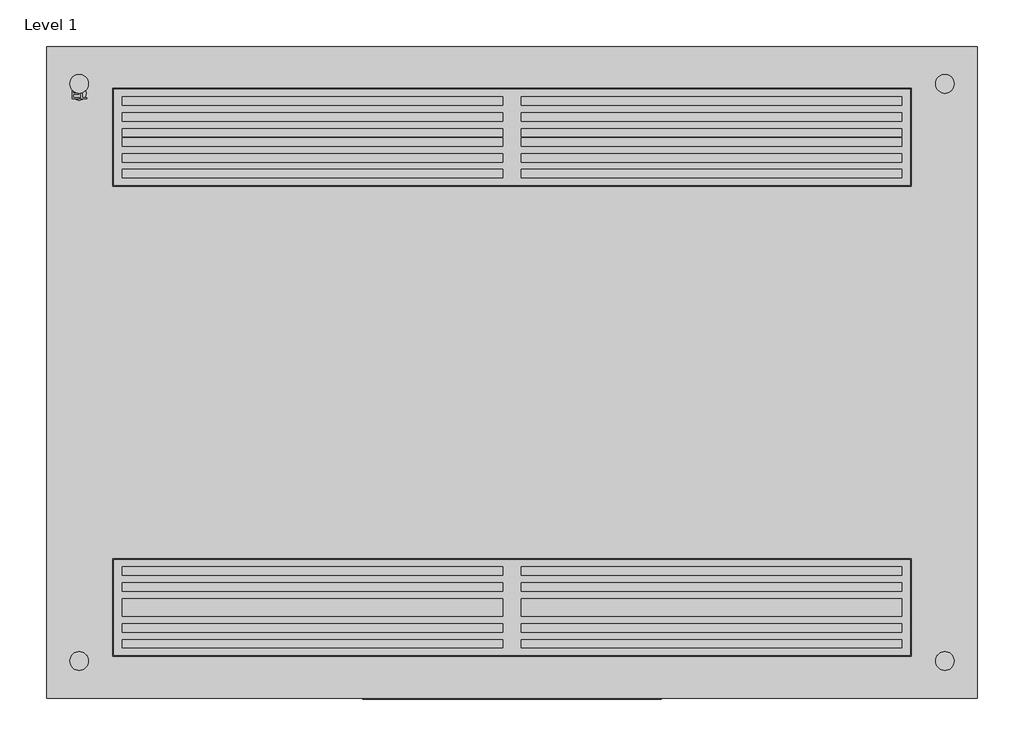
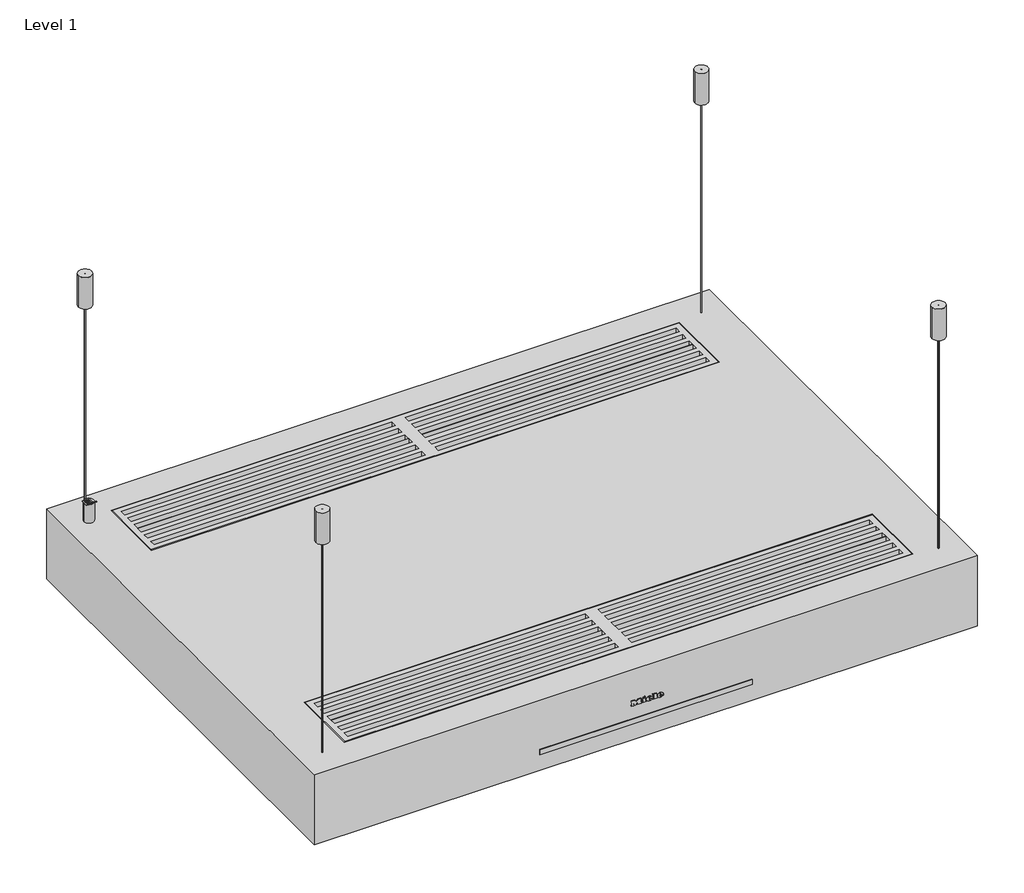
# One storey: 1 proxy.
"""IFC4 building model written with IfcOpenShell, lengths in millimetres."""

import ifcopenshell
import ifcopenshell.guid

model = None  # the IFC model being written
_history = None  # IfcOwnerHistory: only IFC2X3 demands one
_inside = {}  # id of a spatial element -> (the spatial element, [elements in it])
_under = {}  # id of a project, library or spatial element -> (it, [spatial elements below it])
_declared = {}  # id of a project -> (the project, [libraries it declares])
_typed = {}  # id of a type object -> (the type object, [elements of that type])
_made_of = {}  # id of a material, layer set ... -> (it, [elements and type objects made of it])


def new_model(schema):
    """Start an empty IFC model of exactly this schema.

    Asked for "IFC4X3", IfcOpenShell would pick the latest addendum, in which some entities
    have other attributes; the version numbers below select the first issue.
    IFC2X3 requires an IfcOwnerHistory on every rooted entity: one is made here for all.
    """
    global model, _history
    if schema == "IFC4X3":
        model = ifcopenshell.file(schema_version=(4, 3, 0, 0))
    else:
        model = ifcopenshell.file(schema=schema)
    _inside.clear()
    _under.clear()
    _declared.clear()
    _typed.clear()
    _made_of.clear()
    _history = None
    if model.schema == "IFC2X3":
        org = make("IfcOrganization", Name="unknown")
        user = make(
            "IfcPersonAndOrganization",
            ThePerson=make("IfcPerson", FamilyName="unknown"),
            TheOrganization=org,
        )
        app = make(
            "IfcApplication",
            ApplicationDeveloper=org,
            Version="unknown",
            ApplicationFullName="unknown",
            ApplicationIdentifier="unknown",
        )
        _history = make(
            "IfcOwnerHistory",
            OwningUser=user,
            OwningApplication=app,
            ChangeAction="ADDED",
            CreationDate=0,
        )
    return model


def make(cls, **values):
    """One entity of the class cls with the attributes given. An attribute that is None is left unset."""
    return model.create_entity(
        cls, **{name: value for name, value in values.items() if value is not None}
    )


def rooted(cls, **values):
    """An entity with a GlobalId (a new one), such as an element, a storey or a relation."""
    return make(cls, GlobalId=ifcopenshell.guid.new(), OwnerHistory=_history, **values)


def si_unit(unit_type, name, prefix=None):
    """IfcSIUnit, for example si_unit("LENGTHUNIT", "METRE", prefix="MILLI")."""
    return make("IfcSIUnit", UnitType=unit_type, Prefix=prefix, Name=name)


def assignment(units):
    """IfcUnitAssignment: the units of a project."""
    return None if units is None else make("IfcUnitAssignment", Units=units)


def point(xyz):
    """IfcCartesianPoint."""
    return None if xyz is None else make("IfcCartesianPoint", Coordinates=xyz)


def direction(xyz):
    """IfcDirection."""
    return None if xyz is None else make("IfcDirection", DirectionRatios=xyz)


def frame(location, z_axis=None, x_axis=None):
    """IfcAxis2Placement3D, a coordinate frame: its origin and axes. An axis left out is left unset."""
    return make(
        "IfcAxis2Placement3D",
        Location=point(location),
        Axis=direction(z_axis),
        RefDirection=direction(x_axis),
    )


def frame_2d(location, x_axis=None):
    """IfcAxis2Placement2D, a coordinate frame in the plane: its origin and x axis."""
    return make(
        "IfcAxis2Placement2D", Location=point(location), RefDirection=direction(x_axis)
    )


def origin():
    """The frame at (0, 0, 0) with its axes left unset."""
    return frame((0.0, 0.0, 0.0))


def place(relative_to, where):
    """IfcLocalPlacement: puts the frame where relative to a parent placement (None: the world)."""
    return make(
        "IfcLocalPlacement", PlacementRelTo=relative_to, RelativePlacement=where
    )


def context(
    kind, dimensions, precision=None, world=None, true_north=None, identifier=None
):
    """IfcGeometricRepresentationContext, for example the 3D "Model" context."""
    return make(
        "IfcGeometricRepresentationContext",
        ContextIdentifier=identifier,
        ContextType=kind,
        CoordinateSpaceDimension=dimensions,
        Precision=precision,
        WorldCoordinateSystem=world,
        TrueNorth=true_north,
    )


def project(units=None, contexts=None):
    """IfcProject with its units and contexts."""
    return rooted(
        "IfcProject",
        Name="project",
        RepresentationContexts=contexts,
        UnitsInContext=assignment(units),
    )


def spatial(cls, under=None, at=None, **own):
    """A site, building, storey or space (cls), placed at a placement, below another one or the project."""
    s = rooted(cls, ObjectPlacement=at, **own)
    if under is not None:
        _under.setdefault(under.id(), (under, []))[1].append(s)
    return s


def polyline(points):
    """IfcPolyline through the points."""
    return make("IfcPolyline", Points=[point(p) for p in points])


def circle_curve(where, radius):
    """IfcCircle in the frame where."""
    return make("IfcCircle", Position=where, Radius=radius)


def ellipse_curve(where, semi_axis1, semi_axis2):
    """IfcEllipse in the frame where."""
    return make(
        "IfcEllipse", Position=where, SemiAxis1=semi_axis1, SemiAxis2=semi_axis2
    )


def trimmed(basis, trim1, trim2, sense, master):
    """IfcTrimmedCurve: the piece of a basis curve between two trims."""
    return make(
        "IfcTrimmedCurve",
        BasisCurve=basis,
        Trim1=trim1,
        Trim2=trim2,
        SenseAgreement=sense,
        MasterRepresentation=master,
    )


def segment(curve, same_sense, transition):
    """IfcCompositeCurveSegment."""
    return make(
        "IfcCompositeCurveSegment",
        Transition=transition,
        SameSense=same_sense,
        ParentCurve=curve,
    )


def composite_curve(segments, self_intersect=None):
    """IfcCompositeCurve: segments joined end to end."""
    return make("IfcCompositeCurve", Segments=segments, SelfIntersect=self_intersect)


def outline(outer, holes=None, kind="AREA"):
    """IfcArbitraryClosedProfileDef: a profile drawn as a closed curve; with holes, ...WithVoids."""
    if holes is None:
        return make("IfcArbitraryClosedProfileDef", ProfileType=kind, OuterCurve=outer)
    return make(
        "IfcArbitraryProfileDefWithVoids",
        ProfileType=kind,
        OuterCurve=outer,
        InnerCurves=holes,
    )


def extrude(swept, where, along, depth):
    """IfcExtrudedAreaSolid: the profile swept, set in the frame where, extruded along a direction by depth."""
    return make(
        "IfcExtrudedAreaSolid",
        SweptArea=swept,
        Position=where,
        ExtrudedDirection=direction(along),
        Depth=depth,
    )


def faces_of(points, faces, orient=None, outer=None):
    """IfcFace entities. A face is a list of loops; a loop is a list of indices into points, from 0.

    orient and outer hold one flag for each loop. By default every Orientation is true, the
    first loop of a face is its IfcFaceOuterBound and the others are IfcFaceBound.
    """
    made = []
    for i, loops in enumerate(faces):
        bounds = []
        for j, loop in enumerate(loops):
            is_outer = j == 0 if outer is None else outer[i][j]
            bounds.append(
                make(
                    "IfcFaceOuterBound" if is_outer else "IfcFaceBound",
                    Bound=make("IfcPolyLoop", Polygon=[points[k] for k in loop]),
                    Orientation=True if orient is None else orient[i][j],
                )
            )
        made.append(make("IfcFace", Bounds=bounds))
    return made


def faceted_brep(points, faces, orient=None, outer=None, voids=None):
    """IfcFacetedBrep: a solid bounded by flat faces; with voids (closed shells), ...WithVoids."""
    shared = [point(p) for p in points]
    hull = make("IfcClosedShell", CfsFaces=faces_of(shared, faces, orient, outer))
    if voids is None:
        return make("IfcFacetedBrep", Outer=hull)
    return make(
        "IfcFacetedBrepWithVoids",
        Outer=hull,
        Voids=[
            make(cls, CfsFaces=faces_of(shared, fs, o, b)) for cls, fs, o, b in voids
        ],
    )


def shape(context_of_items, identifier, shape_type, items):
    """IfcShapeRepresentation: the items that make up one representation, for example the "Body"."""
    return make(
        "IfcShapeRepresentation",
        ContextOfItems=context_of_items,
        RepresentationIdentifier=identifier,
        RepresentationType=shape_type,
        Items=items,
    )


def source(mapping_origin, context_of_items, identifier, shape_type, items):
    """IfcRepresentationMap: a shape defined once, which mapped items show again and again."""
    return make(
        "IfcRepresentationMap",
        MappingOrigin=mapping_origin,
        MappedRepresentation=shape(context_of_items, identifier, shape_type, items),
    )


def transform(
    local_origin,
    x_axis=None,
    y_axis=None,
    z_axis=None,
    scale=None,
    scale2=None,
    scale3=None,
    uniform=True,
):
    """IfcCartesianTransformationOperator3D, or its non-uniform kind. x_axis, y_axis, z_axis: its Axis1, 2, 3."""
    if uniform:
        return make(
            "IfcCartesianTransformationOperator3D",
            Axis1=direction(x_axis),
            Axis2=direction(y_axis),
            LocalOrigin=point(local_origin),
            Scale=scale,
            Axis3=direction(z_axis),
        )
    return make(
        "IfcCartesianTransformationOperator3DnonUniform",
        Axis1=direction(x_axis),
        Axis2=direction(y_axis),
        LocalOrigin=point(local_origin),
        Scale=scale,
        Axis3=direction(z_axis),
        Scale2=scale2,
        Scale3=scale3,
    )


def mapped(mapping_source, mapping_target):
    """IfcMappedItem: shows the shape of a source again, moved by a transform."""
    return make(
        "IfcMappedItem", MappingSource=mapping_source, MappingTarget=mapping_target
    )


def made_of(thing, what):
    """Note that an element or type object is made of a material, layer set ...; save() writes the relation."""
    if what is not None:
        _made_of.setdefault(what.id(), (what, []))[1].append(thing)
    return thing


def element(
    cls,
    number,
    at=None,
    inside=None,
    cuts=None,
    type_object=None,
    material=None,
    context=None,
    identifier="Body",
    shape_type=None,
    held_by="IfcProductDefinitionShape",
    body=None,
    shapes=None,
    **own,
):
    """One element of the class cls, such as IfcWall. Its Tag is "e" and its number.

    at: its placement. inside: the storey or other place that contains it. cuts: it is an
    opening in that element (IfcRelVoidsElement). A single representation is given by context,
    identifier, shape_type and body (its items); several are given by shapes. held_by: the class
    of the entity that holds the representations. save() writes the other relations.
    """
    e = rooted(cls, Tag="e%d" % number, ObjectPlacement=at, **own)
    if body is not None:
        shapes = [shape(context, identifier, shape_type, body)]
    if shapes is not None:
        e.Representation = make(held_by, Representations=shapes)
    if inside is not None:
        _inside.setdefault(inside.id(), (inside, []))[1].append(e)
    if cuts is not None:
        rooted(
            "IfcRelVoidsElement", RelatingBuildingElement=cuts, RelatedOpeningElement=e
        )
    if type_object is not None:
        _typed.setdefault(type_object.id(), (type_object, []))[1].append(e)
    return made_of(e, material)


def aggregate(whole, parts):
    """IfcRelAggregates: a whole, such as a stair, and the parts it consists of."""
    return rooted("IfcRelAggregates", RelatingObject=whole, RelatedObjects=parts)


def save(model, path):
    """Write the relations noted so far, then the file.

    IfcRelAggregates (storeys below a building ...), IfcRelContainedInSpatialStructure (elements
    in a storey), IfcRelDefinesByType, IfcRelAssociatesMaterial and IfcRelDeclares: one each for
    every whole, place, type object, material and project.
    """
    for whole, parts in _under.values():
        aggregate(whole, parts)
    for where, things in _inside.values():
        rooted(
            "IfcRelContainedInSpatialStructure",
            RelatedElements=things,
            RelatingStructure=where,
        )
    for kind, things in _typed.values():
        rooted("IfcRelDefinesByType", RelatedObjects=things, RelatingType=kind)
    for what, things in _made_of.values():
        rooted("IfcRelAssociatesMaterial", RelatedObjects=things, RelatingMaterial=what)
    for by, libraries in _declared.values():
        rooted("IfcRelDeclares", RelatingContext=by, RelatedDefinitions=libraries)
    model.write(path)


def plane_surface(at):
    """IfcPlane: the flat surface through the origin of the frame at, square to its z axis."""
    return make("IfcPlane", Position=at)


def cylinder_surface(at, radius):
    """IfcCylindricalSurface: all points at the distance radius from the z axis of the frame at."""
    return make("IfcCylindricalSurface", Position=at, Radius=radius)


def revolved_surface(curve, axis_point, axis_direction):
    """IfcSurfaceOfRevolution: the curve turned about the line through axis_point along axis_direction."""
    return make(
        "IfcSurfaceOfRevolution",
        SweptCurve=make("IfcArbitraryOpenProfileDef", ProfileType="CURVE", Curve=curve),
        AxisPosition=make("IfcAxis1Placement", Location=point(axis_point), Axis=direction(axis_direction)),
    )


def extruded_surface(curve, direction_of_extrusion, depth):
    """IfcSurfaceOfLinearExtrusion: the curve pushed along a direction by depth."""
    return make(
        "IfcSurfaceOfLinearExtrusion",
        SweptCurve=make("IfcArbitraryOpenProfileDef", ProfileType="CURVE", Curve=curve),
        ExtrudedDirection=direction(direction_of_extrusion),
        Depth=depth,
    )


def advanced_brep(points, edges, surfaces, faces):
    """IfcAdvancedBrep: a solid bounded by faces that lie on surfaces and meet in shared edges.

    An edge is (start, end): straight between two places in points (the first is 0);
    or (start, end, curve); or (start, end, curve, False) where it runs against its curve.
    A face is (place in surfaces, loops), or (place, loops, False) where it looks against
    its surface's normal. A loop lists edges by number (the first is 1), with a minus sign
    where the edge is run from its end to its start. The first loop is the outer one.
    """
    corners = [point(p) for p in points]
    vertices = [make("IfcVertexPoint", VertexGeometry=c) for c in corners]
    made = []
    for start, end, *more in edges:
        made.append(
            make(
                "IfcEdgeCurve",
                EdgeStart=vertices[start],
                EdgeEnd=vertices[end],
                EdgeGeometry=more[0] if more else make("IfcPolyline", Points=[corners[start], corners[end]]),
                SameSense=more[1] if len(more) > 1 else True,
            )
        )
    hull = []
    for where, loops, *sense in faces:
        bounds = []
        for j, loop in enumerate(loops):
            ring = [make("IfcOrientedEdge", EdgeElement=made[abs(k) - 1], Orientation=k > 0) for k in loop]
            bounds.append(
                make(
                    "IfcFaceOuterBound" if j == 0 else "IfcFaceBound",
                    Bound=make("IfcEdgeLoop", EdgeList=ring),
                    Orientation=True,
                )
            )
        hull.append(make("IfcAdvancedFace", Bounds=bounds, FaceSurface=surfaces[where], SameSense=sense[0] if sense else True))
    return make("IfcAdvancedBrep", Outer=make("IfcClosedShell", CfsFaces=hull))


def specialty_equipment_cb2d4b99(model_context):
    return source(origin(), model_context, "Body", "SolidModel", [
        advanced_brep(
        [(195.883263, 289.0, 0.0), (254.116737, 289.0, 0.0), (251.5433287, 289.0, -1.2), (198.4566713, 289.0, -1.2), (225.0, 289.0, -1.2), (225.0, 289.0, 0.0)],
        [
            (0, 1, circle_curve(frame((225.0, 289.0, 0.0), z_axis=(0.0, 0.0, -1.0), x_axis=(1.0, 0.0, 0.0)), 29.116737)),
            (1, 2),
            (2, 3, circle_curve(frame((225.0, 289.0, -1.2), z_axis=(0.0, 0.0, 1.0), x_axis=(1.0, 0.0, 0.0)), 26.5433287)),
            (3, 0),
            (1, 0, circle_curve(frame((225.0, 289.0, 0.0), z_axis=(0.0, 0.0, -1.0), x_axis=(1.0, 0.0, 0.0)), 29.116737)),
            (3, 2, circle_curve(frame((225.0, 289.0, -1.2), z_axis=(0.0, 0.0, 1.0), x_axis=(1.0, 0.0, 0.0)), 26.5433287)),
            (2, 4),
            (4, 3),
            (5, 1),
            (0, 5),
        ],
        [
            revolved_surface(polyline([(251.5433287, 289.0, -1.2), (254.116737, 289.0, 0.0)]), (225.0, 289.0, 2238.4), (0.0, 0.0, 1.0)),
            plane_surface(frame((225.0, 289.0, -1.2), z_axis=(0.0, 0.0, -1.0), x_axis=(1.0, 0.0, 0.0))),
            plane_surface(frame((225.0, 289.0, 0.0), z_axis=(0.0, 0.0, 1.0), x_axis=(1.0, 0.0, 0.0))),
        ],
        [
            (0, [[1, 2, 3, 4]]),
            (0, [[5, -4, 6, -2]]),
            (1, [[-3, 7, 8]]),
            (1, [[-6, -8, -7]]),
            (2, [[9, -1, 10]]),
            (2, [[-10, -5, -9]]),
        ],
    ),
        advanced_brep(
        [(-254.116737, 289.0, 0.0), (-195.883263, 289.0, 0.0), (-198.4566713, 289.0, -1.2), (-251.5433287, 289.0, -1.2), (-225.0, 289.0, -1.2), (-225.0, 289.0, 0.0)],
        [
            (0, 1, circle_curve(frame((-225.0, 289.0, 0.0), z_axis=(0.0, 0.0, -1.0), x_axis=(1.0, 0.0, 0.0)), 29.116737)),
            (1, 2),
            (2, 3, circle_curve(frame((-225.0, 289.0, -1.2), z_axis=(0.0, 0.0, 1.0), x_axis=(1.0, 0.0, 0.0)), 26.5433287)),
            (3, 0),
            (1, 0, circle_curve(frame((-225.0, 289.0, 0.0), z_axis=(0.0, 0.0, -1.0), x_axis=(1.0, 0.0, 0.0)), 29.116737)),
            (3, 2, circle_curve(frame((-225.0, 289.0, -1.2), z_axis=(0.0, 0.0, 1.0), x_axis=(1.0, 0.0, 0.0)), 26.5433287)),
            (2, 4),
            (4, 3),
            (5, 1),
            (0, 5),
        ],
        [
            revolved_surface(polyline([(-198.4566713, 289.0, -1.2), (-195.883263, 289.0, 0.0)]), (-225.0, 289.0, 2238.4), (0.0, 0.0, 1.0)),
            plane_surface(frame((-225.0, 289.0, -1.2), z_axis=(0.0, 0.0, -1.0), x_axis=(1.0, 0.0, 0.0))),
            plane_surface(frame((-225.0, 289.0, 0.0), z_axis=(0.0, 0.0, 1.0), x_axis=(1.0, 0.0, 0.0))),
        ],
        [
            (0, [[1, 2, 3, 4]]),
            (0, [[5, -4, 6, -2]]),
            (1, [[-3, 7, 8]]),
            (1, [[-6, -8, -7]]),
            (2, [[9, -1, 10]]),
            (2, [[-10, -5, -9]]),
        ],
    ),
        advanced_brep(
        [(-251.5433287, -289.0, -1.2), (-198.4566713, -289.0, -1.2), (-195.883263, -289.0, 0.0), (-254.116737, -289.0, 0.0), (-225.0, -289.0, -1.2), (-225.0, -289.0, 0.0)],
        [
            (0, 1, circle_curve(frame((-225.0, -289.0, -1.2), z_axis=(0.0, 0.0, 1.0), x_axis=(1.0, 0.0, 0.0)), 26.5433287)),
            (1, 2),
            (2, 3, circle_curve(frame((-225.0, -289.0, 0.0), z_axis=(0.0, 0.0, -1.0), x_axis=(1.0, 0.0, 0.0)), 29.116737)),
            (3, 0),
            (1, 0, circle_curve(frame((-225.0, -289.0, -1.2), z_axis=(0.0, 0.0, 1.0), x_axis=(1.0, 0.0, 0.0)), 26.5433287)),
            (3, 2, circle_curve(frame((-225.0, -289.0, 0.0), z_axis=(0.0, 0.0, -1.0), x_axis=(1.0, 0.0, 0.0)), 29.116737)),
            (0, 4),
            (4, 1),
            (2, 5),
            (5, 3),
        ],
        [
            revolved_surface(polyline([(-195.883263, -289.0, 0.0), (-198.4566713, -289.0, -1.2)]), (-225.0, -289.0, 2238.4), (0.0, 0.0, -1.0)),
            plane_surface(frame((-225.0, -289.0, -1.2), z_axis=(0.0, 0.0, -1.0), x_axis=(1.0, 0.0, 0.0))),
            plane_surface(frame((-225.0, -289.0, 0.0), z_axis=(0.0, 0.0, 1.0), x_axis=(1.0, 0.0, 0.0))),
        ],
        [
            (0, [[1, 2, 3, 4]]),
            (0, [[-2, 5, -4, 6]]),
            (1, [[-1, 7, 8]]),
            (1, [[-5, -8, -7]]),
            (2, [[-3, 9, 10]]),
            (2, [[-6, -10, -9]]),
        ],
    ),
        advanced_brep(
        [(198.4566713, -289.0, -1.2), (251.5433287, -289.0, -1.2), (254.116737, -289.0, 0.0), (195.883263, -289.0, 0.0), (225.0, -289.0, -1.2), (225.0, -289.0, 0.0)],
        [
            (0, 1, circle_curve(frame((225.0, -289.0, -1.2), z_axis=(0.0, 0.0, 1.0), x_axis=(1.0, 0.0, 0.0)), 26.5433287)),
            (1, 2),
            (2, 3, circle_curve(frame((225.0, -289.0, 0.0), z_axis=(0.0, 0.0, -1.0), x_axis=(1.0, 0.0, 0.0)), 29.116737)),
            (3, 0),
            (1, 0, circle_curve(frame((225.0, -289.0, -1.2), z_axis=(0.0, 0.0, 1.0), x_axis=(1.0, 0.0, 0.0)), 26.5433287)),
            (3, 2, circle_curve(frame((225.0, -289.0, 0.0), z_axis=(0.0, 0.0, -1.0), x_axis=(1.0, 0.0, 0.0)), 29.116737)),
            (0, 4),
            (4, 1),
            (2, 5),
            (5, 3),
        ],
        [
            revolved_surface(polyline([(254.116737, -289.0, 0.0), (251.5433287, -289.0, -1.2)]), (225.0, -289.0, 2238.4), (0.0, 0.0, -1.0)),
            plane_surface(frame((225.0, -289.0, -1.2), z_axis=(0.0, 0.0, -1.0), x_axis=(1.0, 0.0, 0.0))),
            plane_surface(frame((225.0, -289.0, 0.0), z_axis=(0.0, 0.0, 1.0), x_axis=(1.0, 0.0, 0.0))),
        ],
        [
            (0, [[1, 2, 3, 4]]),
            (0, [[-2, 5, -4, 6]]),
            (1, [[-1, 7, 8]]),
            (1, [[-5, -8, -7]]),
            (2, [[-3, 9, 10]]),
            (2, [[-6, -10, -9]]),
        ],
    ),
        extrude(outline(composite_curve([segment(trimmed(circle_curve(frame_2d((-465.0, -310.0)), 10.0), [point((-475.0, -310.0))], [point((-455.0, -310.0))], False, "CARTESIAN"), True, "CONTINUOUS"), segment(trimmed(circle_curve(frame_2d((-465.0, -310.0)), 10.0), [point((-455.0, -310.0))], [point((-475.0, -310.0))], False, "CARTESIAN"), True, "CONTINUOUS")], self_intersect=False)), frame((0.0, 0.0, 450.0), z_axis=(0.0, 0.0, 1.0), x_axis=(1.0, 0.0, 0.0)), (0.0, 0.0, 1.0), 50.0),
        extrude(outline(composite_curve([segment(trimmed(circle_curve(frame_2d((465.0, -310.0)), 10.0), [point((455.0, -310.0))], [point((475.0, -310.0))], False, "CARTESIAN"), True, "CONTINUOUS"), segment(trimmed(circle_curve(frame_2d((465.0, -310.0)), 10.0), [point((475.0, -310.0))], [point((455.0, -310.0))], False, "CARTESIAN"), True, "CONTINUOUS")], self_intersect=False)), frame((0.0, 0.0, 450.0), z_axis=(0.0, 0.0, 1.0), x_axis=(1.0, 0.0, 0.0)), (0.0, 0.0, 1.0), 50.0),
        extrude(outline(composite_curve([segment(trimmed(circle_curve(frame_2d((465.0, 310.0)), 10.0), [point((455.0, 310.0))], [point((475.0, 310.0))], False, "CARTESIAN"), True, "CONTINUOUS"), segment(trimmed(circle_curve(frame_2d((465.0, 310.0)), 10.0), [point((475.0, 310.0))], [point((455.0, 310.0))], False, "CARTESIAN"), True, "CONTINUOUS")], self_intersect=False)), frame((0.0, 0.0, 450.0), z_axis=(0.0, 0.0, 1.0), x_axis=(1.0, 0.0, 0.0)), (0.0, 0.0, 1.0), 50.0),
        extrude(outline(composite_curve([segment(trimmed(circle_curve(frame_2d((-465.0, 310.0)), 10.0), [point((-475.0, 310.0))], [point((-455.0, 310.0))], False, "CARTESIAN"), True, "CONTINUOUS"), segment(trimmed(circle_curve(frame_2d((-465.0, 310.0)), 10.0), [point((-455.0, 310.0))], [point((-475.0, 310.0))], False, "CARTESIAN"), True, "CONTINUOUS")], self_intersect=False)), frame((0.0, 0.0, 450.0), z_axis=(0.0, 0.0, 1.0), x_axis=(1.0, 0.0, 0.0)), (0.0, 0.0, 1.0), 50.0),
        extrude(outline(composite_curve([segment(trimmed(circle_curve(frame_2d((-465.0, -310.0)), 0.8), [point((-465.8, -310.0))], [point((-464.2, -310.0))], False, "CARTESIAN"), True, "CONTINUOUS"), segment(trimmed(circle_curve(frame_2d((-465.0, -310.0)), 0.8), [point((-464.2, -310.0))], [point((-465.8, -310.0))], False, "CARTESIAN"), True, "CONTINUOUS")], self_intersect=False)), frame((0.0, 0.0, 112.0), z_axis=(0.0, 0.0, 1.0), x_axis=(1.0, 0.0, 0.0)), (0.0, 0.0, 1.0), 388.0),
        extrude(outline(composite_curve([segment(trimmed(circle_curve(frame_2d((465.0, -310.0)), 0.8), [point((464.2, -310.0))], [point((465.8, -310.0))], False, "CARTESIAN"), True, "CONTINUOUS"), segment(trimmed(circle_curve(frame_2d((465.0, -310.0)), 0.8), [point((465.8, -310.0))], [point((464.2, -310.0))], False, "CARTESIAN"), True, "CONTINUOUS")], self_intersect=False)), frame((0.0, 0.0, 112.0), z_axis=(0.0, 0.0, 1.0), x_axis=(1.0, 0.0, 0.0)), (0.0, 0.0, 1.0), 388.0),
        extrude(outline(composite_curve([segment(trimmed(circle_curve(frame_2d((465.0, 310.0)), 0.8), [point((464.2, 310.0))], [point((465.8, 310.0))], False, "CARTESIAN"), True, "CONTINUOUS"), segment(trimmed(circle_curve(frame_2d((465.0, 310.0)), 0.8), [point((465.8, 310.0))], [point((464.2, 310.0))], False, "CARTESIAN"), True, "CONTINUOUS")], self_intersect=False)), frame((0.0, 0.0, 112.0), z_axis=(0.0, 0.0, 1.0), x_axis=(1.0, 0.0, 0.0)), (0.0, 0.0, 1.0), 388.0),
        extrude(outline(composite_curve([segment(trimmed(circle_curve(frame_2d((-465.0, 310.0)), 0.8), [point((-465.8, 310.0))], [point((-464.2, 310.0))], False, "CARTESIAN"), True, "CONTINUOUS"), segment(trimmed(circle_curve(frame_2d((-465.0, 310.0)), 0.8), [point((-464.2, 310.0))], [point((-465.8, 310.0))], False, "CARTESIAN"), True, "CONTINUOUS")], self_intersect=False)), frame((0.0, 0.0, 112.0), z_axis=(0.0, 0.0, 1.0), x_axis=(1.0, 0.0, 0.0)), (0.0, 0.0, 1.0), 388.0),
        advanced_brep(
        [(21.104, -351.0, 56.396), (21.104, -351.0, 57.204), (26.456, -351.0, 57.204), (17.144, -351.0, 57.204), (19.344, -351.0, 54.5), (26.32, -351.0, 56.396), (23.904, -351.0, 56.396), (22.0, -351.0, 55.5), (21.104, -351.0, 58.228), (21.104, -351.0, 59.1), (22.472, -351.0, 59.1), (22.472, -351.0, 58.228), (21.104, -350.0, 56.396), (22.0, -350.0, 55.5), (23.904, -350.0, 56.396), (26.32, -350.0, 56.396), (19.344, -350.0, 54.5), (17.144, -350.0, 57.204), (26.456, -350.0, 57.204), (21.104, -350.0, 57.204), (21.104, -350.0, 58.228), (22.472, -350.0, 58.228), (22.472, -350.0, 59.1), (21.104, -350.0, 59.1)],
        [
            (0, 1),
            (1, 2),
            (2, 3, ellipse_curve(frame((21.8, -351.0, 57.204), z_axis=(0.0, -1.0, 0.0), x_axis=(-1.0, 0.0, 0.0)), 4.656, 3.848)),
            (3, 4, circle_curve(frame((20.2400436, -351.0, 57.476), z_axis=(0.0, -1.0, 0.0), x_axis=(0.0, 0.0, -1.0)), 3.1079688)),
            (4, 5, circle_curve(frame((21.7067936, -351.0, 59.588), z_axis=(0.0, -1.0, 0.0), x_axis=(0.0, 0.0, -1.0)), 5.6098607)),
            (5, 6),
            (6, 7, circle_curve(frame((22.3910588, -351.0, 57.14), z_axis=(0.0, 1.0, 0.0), x_axis=(0.0, 0.0, -1.0)), 1.6859795)),
            (7, 0, circle_curve(frame((22.0, -351.0, 56.396), z_axis=(0.0, 1.0, 0.0), x_axis=(0.0, 0.0, -1.0)), 0.896)),
            (8, 9),
            (9, 10, circle_curve(frame((21.788, -351.0, 59.1), z_axis=(0.0, 1.0, 0.0), x_axis=(0.0, 0.0, -1.0)), 0.684)),
            (10, 11),
            (11, 8),
            (12, 13, circle_curve(frame((22.0, -350.0, 56.396), z_axis=(0.0, -1.0, 0.0), x_axis=(0.0, 0.0, -1.0)), 0.896)),
            (13, 14, circle_curve(frame((22.3910588, -350.0, 57.14), z_axis=(0.0, -1.0, 0.0), x_axis=(0.0, 0.0, -1.0)), 1.6859795)),
            (14, 15),
            (15, 16, circle_curve(frame((21.7067936, -350.0, 59.588), z_axis=(0.0, 1.0, 0.0), x_axis=(0.0, 0.0, -1.0)), 5.6098607)),
            (16, 17, circle_curve(frame((20.2400436, -350.0, 57.476), z_axis=(0.0, 1.0, 0.0), x_axis=(0.0, 0.0, -1.0)), 3.1079688)),
            (17, 18, ellipse_curve(frame((21.8, -350.0, 57.204), z_axis=(0.0, 1.0, 0.0), x_axis=(-1.0, 0.0, 0.0)), 4.656, 3.848)),
            (18, 19),
            (19, 12),
            (20, 21),
            (21, 22),
            (22, 23, circle_curve(frame((21.788, -350.0, 59.1), z_axis=(0.0, -1.0, 0.0), x_axis=(0.0, 0.0, -1.0)), 0.684)),
            (23, 20),
            (0, 12),
            (19, 1),
            (18, 2),
            (5, 15),
            (14, 6),
            (17, 3),
            (13, 7),
            (16, 4),
            (8, 20),
            (23, 9),
            (22, 10),
            (21, 11),
        ],
        [
            plane_surface(frame((21.104, -351.0, 57.204), z_axis=(0.0, -1.0, 0.0), x_axis=(0.0, 0.0, 1.0))),
            plane_surface(frame((21.104, -350.0, 57.204), z_axis=(0.0, 1.0, 0.0), x_axis=(0.0, 0.0, -1.0))),
            plane_surface(frame((21.104, -351.0, 56.396), z_axis=(1.0, 0.0, 0.0), x_axis=(0.0, 1.0, 0.0))),
            plane_surface(frame((21.104, -351.0, 57.204), z_axis=(0.0, 0.0, -1.0), x_axis=(0.0, 1.0, 0.0))),
            plane_surface(frame((26.32, -351.0, 56.396), z_axis=(0.0, 0.0, 1.0), x_axis=(0.0, 1.0, 0.0))),
            extruded_surface(trimmed(ellipse_curve(frame((21.8, -349.0, 57.204), z_axis=(0.0, -1.0, 0.0), x_axis=(-1.0, 0.0, 0.0)), 4.656, 3.848), [point((26.456, -349.0, 57.204))], [point((17.144, -349.0, 57.204))], True, "CARTESIAN"), (0.0, -1.0, 0.0), 1.0),
            revolved_surface(polyline([(22.3910588, -350.0, 55.4540205), (22.3910588, -351.0, 55.4540205)]), (22.3910588, -350.0, 57.14), (0.0, 1.0, 0.0)),
            revolved_surface(polyline([(22.0, -350.0, 55.5), (22.0, -351.0, 55.5)]), (22.0, -350.0, 56.396), (0.0, 1.0, 0.0)),
            cylinder_surface(frame((20.2400436, -350.0, 57.476), z_axis=(0.0, -1.0, 0.0), x_axis=(0.0, 0.0, -1.0)), 3.1079688),
            cylinder_surface(frame((21.7067936, -350.0, 59.588), z_axis=(0.0, -1.0, 0.0), x_axis=(0.0, 0.0, -1.0)), 5.6098607),
            plane_surface(frame((21.104, -351.0, 58.228), z_axis=(1.0, 0.0, 0.0), x_axis=(0.0, 1.0, 0.0))),
            revolved_surface(polyline([(21.788, -350.0, 58.416000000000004), (21.788, -351.0, 58.416000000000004)]), (21.788, -350.0, 59.1), (0.0, 1.0, 0.0)),
            plane_surface(frame((22.472, -351.0, 59.1), z_axis=(-1.0, 0.0, 0.0), x_axis=(0.0, 1.0, 0.0))),
            plane_surface(frame((22.472, -351.0, 58.228), z_axis=(0.0, 0.0, 1.0), x_axis=(0.0, 1.0, 0.0))),
        ],
        [
            (0, [[1, 2, 3, 4, 5, 6, 7, 8], [9, 10, 11, 12]]),
            (1, [[13, 14, 15, 16, 17, 18, 19, 20], [21, 22, 23, 24]]),
            (2, [[-1, 25, -20, 26]]),
            (3, [[-2, -26, -19, 27]]),
            (4, [[-6, 28, -15, 29]]),
            (5, [[-3, -27, -18, 30]]),
            (6, [[-7, -29, -14, 31]]),
            (7, [[-8, -31, -13, -25]]),
            (8, [[-4, -30, -17, 32]]),
            (9, [[-5, -32, -16, -28]]),
            (10, [[-9, 33, -24, 34]]),
            (11, [[-10, -34, -23, 35]]),
            (12, [[-11, -35, -22, 36]]),
            (13, [[-12, -36, -21, -33]]),
        ],
    ),
        advanced_brep(
        [(4.408, -351.0, 56.396), (4.408, -351.0, 57.204), (9.76, -351.0, 57.204), (0.448, -351.0, 57.204), (2.648, -351.0, 54.5), (9.624, -351.0, 56.396), (7.208, -351.0, 56.396), (5.304, -351.0, 55.5), (4.408, -351.0, 58.228), (4.408, -351.0, 59.1), (5.776, -351.0, 59.1), (5.776, -351.0, 58.228), (4.408, -350.0, 56.396), (5.304, -350.0, 55.5), (7.208, -350.0, 56.396), (9.624, -350.0, 56.396), (2.648, -350.0, 54.5), (0.448, -350.0, 57.204), (9.76, -350.0, 57.204), (4.408, -350.0, 57.204), (4.408, -350.0, 58.228), (5.776, -350.0, 58.228), (5.776, -350.0, 59.1), (4.408, -350.0, 59.1)],
        [
            (0, 1),
            (1, 2),
            (2, 3, ellipse_curve(frame((5.104, -351.0, 57.204), z_axis=(0.0, -1.0, 0.0), x_axis=(-1.0, 0.0, 0.0)), 4.656, 3.848)),
            (3, 4, circle_curve(frame((3.5440436, -351.0, 57.476), z_axis=(0.0, -1.0, 0.0), x_axis=(0.0, 0.0, -1.0)), 3.1079688)),
            (4, 5, circle_curve(frame((5.0107936, -351.0, 59.588), z_axis=(0.0, -1.0, 0.0), x_axis=(0.0, 0.0, -1.0)), 5.6098607)),
            (5, 6),
            (6, 7, circle_curve(frame((5.6950588, -351.0, 57.14), z_axis=(0.0, 1.0, 0.0), x_axis=(0.0, 0.0, -1.0)), 1.6859795)),
            (7, 0, circle_curve(frame((5.304, -351.0, 56.396), z_axis=(0.0, 1.0, 0.0), x_axis=(0.0, 0.0, -1.0)), 0.896)),
            (8, 9),
            (9, 10, circle_curve(frame((5.092, -351.0, 59.1), z_axis=(0.0, 1.0, 0.0), x_axis=(0.0, 0.0, -1.0)), 0.684)),
            (10, 11),
            (11, 8),
            (12, 13, circle_curve(frame((5.304, -350.0, 56.396), z_axis=(0.0, -1.0, 0.0), x_axis=(0.0, 0.0, -1.0)), 0.896)),
            (13, 14, circle_curve(frame((5.6950588, -350.0, 57.14), z_axis=(0.0, -1.0, 0.0), x_axis=(0.0, 0.0, -1.0)), 1.6859795)),
            (14, 15),
            (15, 16, circle_curve(frame((5.0107936, -350.0, 59.588), z_axis=(0.0, 1.0, 0.0), x_axis=(0.0, 0.0, -1.0)), 5.6098607)),
            (16, 17, circle_curve(frame((3.5440436, -350.0, 57.476), z_axis=(0.0, 1.0, 0.0), x_axis=(0.0, 0.0, -1.0)), 3.1079688)),
            (17, 18, ellipse_curve(frame((5.104, -350.0, 57.204), z_axis=(0.0, 1.0, 0.0), x_axis=(-1.0, 0.0, 0.0)), 4.656, 3.848)),
            (18, 19),
            (19, 12),
            (20, 21),
            (21, 22),
            (22, 23, circle_curve(frame((5.092, -350.0, 59.1), z_axis=(0.0, -1.0, 0.0), x_axis=(0.0, 0.0, -1.0)), 0.684)),
            (23, 20),
            (0, 12),
            (19, 1),
            (18, 2),
            (5, 15),
            (14, 6),
            (17, 3),
            (13, 7),
            (16, 4),
            (8, 20),
            (23, 9),
            (22, 10),
            (21, 11),
        ],
        [
            plane_surface(frame((4.408, -351.0, 57.204), z_axis=(0.0, -1.0, 0.0), x_axis=(0.0, 0.0, 1.0))),
            plane_surface(frame((4.408, -350.0, 57.204), z_axis=(0.0, 1.0, 0.0), x_axis=(0.0, 0.0, -1.0))),
            plane_surface(frame((4.408, -351.0, 56.396), z_axis=(1.0, 0.0, 0.0), x_axis=(0.0, 1.0, 0.0))),
            plane_surface(frame((4.408, -351.0, 57.204), z_axis=(0.0, 0.0, -1.0), x_axis=(0.0, 1.0, 0.0))),
            plane_surface(frame((9.624, -351.0, 56.396), z_axis=(0.0, 0.0, 1.0), x_axis=(0.0, 1.0, 0.0))),
            extruded_surface(trimmed(ellipse_curve(frame((5.104, -349.0, 57.204), z_axis=(0.0, -1.0, 0.0), x_axis=(-1.0, 0.0, 0.0)), 4.656, 3.848), [point((9.76, -349.0, 57.204))], [point((0.448, -349.0, 57.204))], True, "CARTESIAN"), (0.0, -1.0, 0.0), 1.0),
            revolved_surface(polyline([(5.6950588, -350.0, 55.4540205), (5.6950588, -351.0, 55.4540205)]), (5.6950588, -350.0, 57.14), (0.0, 1.0, 0.0)),
            revolved_surface(polyline([(5.304, -350.0, 55.5), (5.304, -351.0, 55.5)]), (5.304, -350.0, 56.396), (0.0, 1.0, 0.0)),
            cylinder_surface(frame((3.5440436, -350.0, 57.476), z_axis=(0.0, -1.0, 0.0), x_axis=(0.0, 0.0, -1.0)), 3.1079688),
            cylinder_surface(frame((5.0107936, -350.0, 59.588), z_axis=(0.0, -1.0, 0.0), x_axis=(0.0, 0.0, -1.0)), 5.6098607),
            plane_surface(frame((4.408, -351.0, 58.228), z_axis=(1.0, 0.0, 0.0), x_axis=(0.0, 1.0, 0.0))),
            revolved_surface(polyline([(5.092, -350.0, 58.416000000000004), (5.092, -351.0, 58.416000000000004)]), (5.092, -350.0, 59.1), (0.0, 1.0, 0.0)),
            plane_surface(frame((5.776, -351.0, 59.1), z_axis=(-1.0, 0.0, 0.0), x_axis=(0.0, 1.0, 0.0))),
            plane_surface(frame((5.776, -351.0, 58.228), z_axis=(0.0, 0.0, 1.0), x_axis=(0.0, 1.0, 0.0))),
        ],
        [
            (0, [[1, 2, 3, 4, 5, 6, 7, 8], [9, 10, 11, 12]]),
            (1, [[13, 14, 15, 16, 17, 18, 19, 20], [21, 22, 23, 24]]),
            (2, [[-1, 25, -20, 26]]),
            (3, [[-2, -26, -19, 27]]),
            (4, [[-6, 28, -15, 29]]),
            (5, [[-3, -27, -18, 30]]),
            (6, [[-7, -29, -14, 31]]),
            (7, [[-8, -31, -13, -25]]),
            (8, [[-4, -30, -17, 32]]),
            (9, [[-5, -32, -16, -28]]),
            (10, [[-9, 33, -24, 34]]),
            (11, [[-10, -34, -23, 35]]),
            (12, [[-11, -35, -22, 36]]),
            (13, [[-12, -36, -21, -33]]),
        ],
    ),
        extrude(outline(polyline([(62.028, -4.336), (60.732, -3.728), (61.996, -1.016), (63.292, -1.616), (62.028, -4.336)])), frame((0.0, -351.0, 0.0), z_axis=(0.0, 1.0, 0.0), x_axis=(0.0, 0.0, 1.0)), (0.0, 0.0, 1.0), 1.0),
        extrude(outline(polyline([(60.556, -6.312), (59.124, -6.312), (59.124, -5.36), (55.844, -5.36), (55.844, -6.312), (54.5, -6.312), (54.5, 0.0), (55.844, 0.0), (55.844, -0.928), (60.556, -0.928), (60.556, -6.312)])), frame((0.0, -351.0, 0.0), z_axis=(0.0, 1.0, 0.0), x_axis=(0.0, 0.0, 1.0)), (0.0, 0.0, 1.0), 1.0),
        extrude(outline(polyline([(61.196, 10.208), (61.196, 11.168), (55.844, 11.168), (55.844, 10.208), (54.5, 10.208), (54.5, 16.696), (55.844, 16.696), (55.844, 15.712), (62.5, 15.712), (62.5, 10.208), (61.196, 10.208)])), frame((0.0, -351.0, 0.0), z_axis=(0.0, 1.0, 0.0), x_axis=(0.0, 0.0, 1.0)), (0.0, 0.0, 1.0), 1.0),
        extrude(outline(polyline([(61.196, -22.256), (61.196, -21.288), (55.844, -21.288), (55.844, -22.256), (54.5, -22.256), (54.5, -18.736), (55.844, -18.736), (55.844, -19.696), (59.2471247, -19.696), (54.5, -16.12), (59.3152223, -12.528), (55.844, -12.528), (55.844, -13.512), (54.5, -13.512), (54.5, -7.128), (55.844, -7.128), (55.844, -8.144), (61.196, -8.144), (61.196, -7.128), (62.5, -7.128), (62.5, -12.0), (59.5, -14.336), (62.5, -16.68), (62.5, -22.256), (61.196, -22.256)])), frame((0.0, -351.0, 0.0), z_axis=(0.0, 1.0, 0.0), x_axis=(0.0, 0.0, 1.0)), (0.0, 0.0, 1.0), 1.0),
        extrude(outline(polyline([(63.5, 227.0), (378.0, 227.0), (378.0, -227.0), (63.5, -227.0), (63.5, 227.0)])), frame((0.0, 0.0, 1.2), z_axis=(0.0, 0.0, 1.0), x_axis=(1.0, 0.0, 0.0)), (0.0, 0.0, 1.0), 6.0),
        extrude(outline(polyline([(54.5, 236.0), (387.0, 236.0), (387.0, -236.0), (54.5, -236.0), (54.5, 236.0)]), holes=[polyline([(63.5, 227.0), (63.5, -227.0), (378.0, -227.0), (378.0, 227.0), (63.5, 227.0)])]), frame((0.0, 0.0, -0.3), z_axis=(0.0, 0.0, 1.0), x_axis=(1.0, 0.0, 0.0)), (0.0, 0.0, 1.0), 9.0),
        extrude(outline(polyline([(-63.5, 227.0), (-63.5, -227.0), (-378.0, -227.0), (-378.0, 227.0), (-63.5, 227.0)])), frame((0.0, 0.0, 1.2), z_axis=(0.0, 0.0, 1.0), x_axis=(1.0, 0.0, 0.0)), (0.0, 0.0, 1.0), 6.0),
        extrude(outline(polyline([(-54.5, 236.0), (-54.5, -236.0), (-387.0, -236.0), (-387.0, 236.0), (-54.5, 236.0)]), holes=[polyline([(-63.5, 227.0), (-378.0, 227.0), (-378.0, -227.0), (-63.5, -227.0), (-63.5, 227.0)])]), frame((0.0, 0.0, -0.3), z_axis=(0.0, 0.0, 1.0), x_axis=(1.0, 0.0, 0.0)), (0.0, 0.0, 1.0), 9.0),
        extrude(outline(polyline([(204.25, 184.0), (204.25, 227.0), (237.25, 227.0), (237.25, 184.0), (204.25, 184.0)]), holes=[polyline([(210.75, 190.5), (230.5214328, 190.5), (230.5214328, 199.5), (210.75, 199.5), (210.75, 190.5)])]), frame((0.0, 0.0, -0.3), z_axis=(0.0, 0.0, 1.0), x_axis=(1.0, 0.0, 0.0)), (0.0, 0.0, 1.0), 1.5),
        extrude(outline(polyline([(-204.25, 184.0), (-237.25, 184.0), (-237.25, 227.0), (-204.25, 227.0), (-204.25, 184.0)]), holes=[polyline([(-210.75, 190.5), (-210.75, 199.5), (-230.75, 199.5), (-230.75, 190.5), (-210.75, 190.5)])]), frame((0.0, 0.0, -0.3), z_axis=(0.0, 0.0, 1.0), x_axis=(1.0, 0.0, 0.0)), (0.0, 0.0, 1.0), 1.5),
        extrude(outline(polyline([(-427.6682536, 304.0), (427.6682536, 304.0), (427.6682536, 201.0), (-427.6682536, 201.0), (-427.6682536, 304.0)]), holes=[polyline([(10.0, 243.0), (418.6682536, 243.0), (418.6682536, 252.0), (10.0, 252.0), (10.0, 243.0)]), polyline([(-418.6682536, 253.0), (-10.0, 253.0), (-10.0, 262.0), (-418.6682536, 262.0), (-418.6682536, 253.0)]), polyline([(-418.6682536, 226.0), (-10.0, 226.0), (-10.0, 235.0), (-418.6682536, 235.0), (-418.6682536, 226.0)]), polyline([(10.0, 226.0), (418.6682536, 226.0), (418.6682536, 235.0), (10.0, 235.0), (10.0, 226.0)]), polyline([(-418.6682536, 243.0), (-10.0, 243.0), (-10.0, 252.0), (-418.6682536, 252.0), (-418.6682536, 243.0)]), polyline([(10.0, 287.0), (418.6682536, 287.0), (418.6682536, 296.0), (10.0, 296.0), (10.0, 287.0)]), polyline([(10.0, 209.0), (418.6682536, 209.0), (418.6682536, 218.0), (10.0, 218.0), (10.0, 209.0)]), polyline([(-418.6682536, 270.0), (-10.0, 270.0), (-10.0, 279.0), (-418.6682536, 279.0), (-418.6682536, 270.0)]), polyline([(-418.6682536, 287.0), (-10.0, 287.0), (-10.0, 296.0), (-418.6682536, 296.0), (-418.6682536, 287.0)]), polyline([(-418.6682536, 209.0), (-10.0, 209.0), (-10.0, 218.0), (-418.6682536, 218.0), (-418.6682536, 209.0)]), polyline([(10.0, 270.0), (418.6682536, 270.0), (418.6682536, 279.0), (10.0, 279.0), (10.0, 270.0)]), polyline([(10.0, 253.0), (418.6682536, 253.0), (418.6682536, 262.0), (10.0, 262.0), (10.0, 253.0)])]), frame((0.0, 0.0, 102.0), z_axis=(0.0, 0.0, 1.0), x_axis=(1.0, 0.0, 0.0)), (0.0, 0.0, 1.0), 10.0),
        extrude(outline(polyline([(-427.6682536, -304.0), (-427.6682536, -201.0), (427.6682536, -201.0), (427.6682536, -304.0), (-427.6682536, -304.0)]), holes=[polyline([(418.6682536, -226.0), (10.0, -226.0), (10.0, -235.0), (418.6682536, -235.0), (418.6682536, -226.0)]), polyline([(-10.0, -243.0), (-418.6682536, -243.0), (-418.6682536, -252.0), (-10.0, -252.0), (-10.0, -243.0)]), polyline([(-10.0, -253.0), (-418.6682536, -253.0), (-418.6682536, -262.0), (-10.0, -262.0), (-10.0, -253.0)]), polyline([(418.6682536, -253.0), (10.0, -253.0), (10.0, -262.0), (418.6682536, -262.0), (418.6682536, -253.0)]), polyline([(-10.0, -226.0), (-418.6682536, -226.0), (-418.6682536, -235.0), (-10.0, -235.0), (-10.0, -226.0)]), polyline([(418.6682536, -287.0), (10.0, -287.0), (10.0, -296.0), (418.6682536, -296.0), (418.6682536, -287.0)]), polyline([(418.6682536, -209.0), (10.0, -209.0), (10.0, -218.0), (418.6682536, -218.0), (418.6682536, -209.0)]), polyline([(418.6682536, -270.0), (10.0, -270.0), (10.0, -279.0), (418.6682536, -279.0), (418.6682536, -270.0)]), polyline([(-10.0, -287.0), (-418.6682536, -287.0), (-418.6682536, -296.0), (-10.0, -296.0), (-10.0, -287.0)]), polyline([(-10.0, -209.0), (-418.6682536, -209.0), (-418.6682536, -218.0), (-10.0, -218.0), (-10.0, -209.0)]), polyline([(-10.0, -270.0), (-418.6682536, -270.0), (-418.6682536, -279.0), (-10.0, -279.0), (-10.0, -270.0)]), polyline([(418.6682536, -243.0), (10.0, -243.0), (10.0, -252.0), (418.6682536, -252.0), (418.6682536, -243.0)])]), frame((0.0, 0.0, 102.0), z_axis=(0.0, 0.0, 1.0), x_axis=(1.0, 0.0, 0.0)), (0.0, 0.0, 1.0), 10.0),
        faceted_brep([(500.0, 350.0, 112.0), (-500.0, 350.0, 112.0), (-500.0, -350.0, 112.0), (500.0, -350.0, 112.0), (428.6682536, 305.0, 112.0), (428.6682536, 200.0, 112.0), (-428.6682536, 200.0, 112.0), (-428.6682536, 305.0, 112.0), (428.6682536, -200.0, 112.0), (428.6682536, -305.0, 112.0), (-428.6682536, -305.0, 112.0), (-428.6682536, -200.0, 112.0), (500.0, 350.0, 0.0), (500.0, -350.0, 0.0), (-500.0, -350.0, 0.0), (-500.0, 350.0, 0.0), (387.0, -236.0, 0.0), (387.0, 236.0, 0.0), (54.25, 236.0, 0.0), (54.25, -236.0, 0.0), (-54.25, -236.0, 0.0), (-54.25, 236.0, 0.0), (-387.0, 236.0, 0.0), (-387.0, -236.0, 0.0), (-54.25, -236.0, 10.0), (-54.25, 236.0, 10.0), (-387.0, -236.0, 10.0), (-387.0, 236.0, 10.0), (-428.6682536, 305.0, 102.0), (428.6682536, 305.0, 102.0), (428.6682536, 200.0, 102.0), (387.0, 236.0, 10.0), (387.0, -236.0, 10.0), (54.25, -236.0, 10.0), (54.25, 236.0, 10.0), (-428.6682536, 200.0, 102.0), (428.6682536, -200.0, 102.0), (-428.6682536, -200.0, 102.0), (-428.6682536, -305.0, 102.0), (428.6682536, -305.0, 102.0)], [[[0, 1, 2, 3], [4, 5, 6, 7], [8, 9, 10, 11]], [[12, 13, 14, 15], [16, 17, 18, 19], [20, 21, 22, 23]], [[0, 3, 13, 12]], [[1, 0, 12, 15]], [[2, 1, 15, 14]], [[3, 2, 14, 13]], [[24, 25, 21, 20]], [[26, 24, 20, 23]], [[27, 26, 23, 22]], [[25, 27, 22, 21]], [[28, 29, 4, 7]], [[29, 30, 5, 4]], [[31, 32, 33, 34]], [[25, 24, 26, 27]], [[32, 31, 17, 16]], [[33, 32, 16, 19]], [[34, 33, 19, 18]], [[31, 34, 18, 17]], [[29, 28, 35, 30]], [[36, 37, 38, 39]], [[30, 35, 6, 5]], [[35, 28, 7, 6]], [[36, 39, 9, 8]], [[39, 38, 10, 9]], [[38, 37, 11, 10]], [[37, 36, 8, 11]]]),
        extrude(outline(polyline([(-472.3772603, 294.0), (-472.3772603, 304.045631), (-465.156963, 304.045631), (-465.156963, 302.7899271), (-471.1215564, 302.7899271), (-471.1215564, 299.8076304), (-465.470889, 299.8076304), (-465.470889, 298.5519266), (-471.1215564, 298.5519266), (-471.1215564, 295.2557039), (-465.0, 295.2557039), (-465.0, 294.0), (-472.3772603, 294.0)])), frame((0.0, 0.0, 142.0), z_axis=(0.0, 0.0, 1.0), x_axis=(1.0, 0.0, 0.0)), (0.0, 0.0, 1.0), 1.0),
        extrude(outline(polyline([(-463.1164442, 294.0), (-463.1164442, 304.045631), (-461.8607403, 304.045631), (-461.8607403, 295.2557039), (-456.8379248, 295.2557039), (-456.8379248, 294.0), (-463.1164442, 294.0)])), frame((0.0, 0.0, 142.0), z_axis=(0.0, 0.0, 1.0), x_axis=(1.0, 0.0, 0.0)), (0.0, 0.0, 1.0), 1.0),
        extrude(outline(composite_curve([segment(trimmed(circle_curve(frame_2d((-465.0, 300.0)), 7.5), [point((-457.5, 300.0))], [point((-472.5, 300.0))], False, "CARTESIAN"), True, "CONTINUOUS"), segment(trimmed(circle_curve(frame_2d((-465.0, 300.0)), 7.5), [point((-472.5, 300.0))], [point((-457.5, 300.0))], False, "CARTESIAN"), True, "CONTINUOUS")], self_intersect=False)), frame((0.0, 0.0, 112.0), z_axis=(0.0, 0.0, 1.0), x_axis=(1.0, 0.0, 0.0)), (0.0, 0.0, 1.0), 30.0),
        extrude(outline(polyline([(160.5, -350.0), (160.5, -351.0), (-160.5, -351.0), (-160.5, -350.0), (160.5, -350.0)])), frame((0.0, 0.0, 26.0), z_axis=(0.0, 0.0, 1.0), x_axis=(1.0, 0.0, 0.0)), (0.0, 0.0, 1.0), 8.0),
    ])


model = new_model("IFC4")

# Units and contexts
model_context = context("Model", 3, world=origin())
ifc_project = project(units=[si_unit("LENGTHUNIT", "METRE", prefix="MILLI")], contexts=[model_context])

# Site, building, storey
site = spatial("IfcSite", under=ifc_project)
building = spatial("IfcBuilding", under=site)
storey = spatial("IfcBuildingStorey", under=building, Name="Level 1", Elevation=0.0)

# Proxy
placement = place(None, origin())
specialty_equipment_shape = specialty_equipment_cb2d4b99(model_context)
element("IfcBuildingElementProxy", 1, Name="10863410_RU_DA6708D_BRWS : 28670835_RU_10863410_DA6708D_BRWS", ObjectType="10863410_RU_DA6708D_BRWS : 28670835_RU_10863410_DA6708D_BRWS", at=placement, inside=storey, context=model_context, shape_type="MappedRepresentation", body=[
    mapped(specialty_equipment_shape, transform((0.0, 0.0, 0.0), x_axis=(1.0, 0.0, 0.0), y_axis=(0.0, 1.0, 0.0), z_axis=(0.0, 0.0, 1.0))),
])

save(model, "model.ifc")
